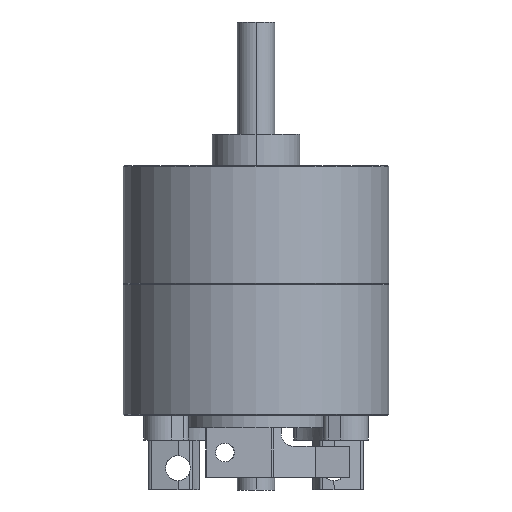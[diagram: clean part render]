
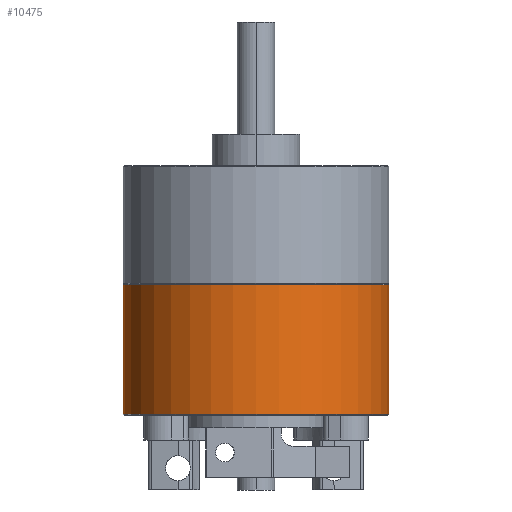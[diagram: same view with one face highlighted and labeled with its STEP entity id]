
A CAD part, front view. The second image highlights one B-rep face of the part: STEP entity #10475.
In plain terms, the highlighted cylindrical face has radius 21.25 mm (diameter 42.5 mm), a partial arc.
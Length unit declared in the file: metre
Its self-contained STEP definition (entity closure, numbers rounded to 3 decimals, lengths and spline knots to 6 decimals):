
#515 = DIRECTION ( 'NONE',  ( 0., 0., 1. ) ) ;
#604 = CYLINDRICAL_SURFACE ( 'NONE', #1049, 0.02125 ) ;
#1049 = AXIS2_PLACEMENT_3D ( 'NONE', #13851, #13509, #13805 ) ;
#1768 = ORIENTED_EDGE ( 'NONE', *, *, #7608, .T. ) ;
#1885 = VECTOR ( 'NONE', #2916, 1. ) ;
#2273 = LINE ( 'NONE', #13551, #1885 ) ;
#2916 = DIRECTION ( 'NONE',  ( 0., 0., 1. ) ) ;
#3161 = VERTEX_POINT ( 'NONE', #3981 ) ;
#3547 = AXIS2_PLACEMENT_3D ( 'NONE', #12333, #12194, #12523 ) ;
#3832 = AXIS2_PLACEMENT_3D ( 'NONE', #11938, #11693, #11642 ) ;
#3981 = CARTESIAN_POINT ( 'NONE',  ( -0.02125, 0., -0.0209 ) ) ;
#4851 = FACE_OUTER_BOUND ( 'NONE', #5981, .T. ) ;
#5241 = ORIENTED_EDGE ( 'NONE', *, *, #14466, .F. ) ;
#5572 = ORIENTED_EDGE ( 'NONE', *, *, #14491, .T. ) ;
#5981 = EDGE_LOOP ( 'NONE', ( #5241, #1768, #5572, #10284 ) ) ;
#7404 = EDGE_CURVE ( 'NONE', #10962, #10695, #14597, .T. ) ;
#7608 = EDGE_CURVE ( 'NONE', #3161, #13598, #11796, .T. ) ;
#7843 = LINE ( 'NONE', #9221, #10608 ) ;
#9221 = CARTESIAN_POINT ( 'NONE',  ( 0.02125, 0., -0.0209 ) ) ;
#9839 = CARTESIAN_POINT ( 'NONE',  ( 0.02125, 0., -0.0001 ) ) ;
#10284 = ORIENTED_EDGE ( 'NONE', *, *, #7404, .F. ) ;
#10475 = ADVANCED_FACE ( 'NONE', ( #4851 ), #604, .T. ) ;
#10608 = VECTOR ( 'NONE', #515, 1. ) ;
#10695 = VERTEX_POINT ( 'NONE', #9839 ) ;
#10962 = VERTEX_POINT ( 'NONE', #14523 ) ;
#11642 = DIRECTION ( 'NONE',  ( 1., 0., 0. ) ) ;
#11693 = DIRECTION ( 'NONE',  ( 0., 0., 1. ) ) ;
#11796 = CIRCLE ( 'NONE', #3547, 0.02125 ) ;
#11938 = CARTESIAN_POINT ( 'NONE',  ( 0., 0., -0.0001 ) ) ;
#12194 = DIRECTION ( 'NONE',  ( 0., 0., 1. ) ) ;
#12333 = CARTESIAN_POINT ( 'NONE',  ( 0., 0., -0.0209 ) ) ;
#12523 = DIRECTION ( 'NONE',  ( 1., 0., 0. ) ) ;
#12608 = CARTESIAN_POINT ( 'NONE',  ( 0.02125, 0., -0.0209 ) ) ;
#13509 = DIRECTION ( 'NONE',  ( 0., 0., 1. ) ) ;
#13551 = CARTESIAN_POINT ( 'NONE',  ( -0.02125, 0., -0.0209 ) ) ;
#13598 = VERTEX_POINT ( 'NONE', #12608 ) ;
#13805 = DIRECTION ( 'NONE',  ( 1., 0., 0. ) ) ;
#13851 = CARTESIAN_POINT ( 'NONE',  ( 0., 0., -0.0209 ) ) ;
#14466 = EDGE_CURVE ( 'NONE', #3161, #10962, #2273, .T. ) ;
#14491 = EDGE_CURVE ( 'NONE', #13598, #10695, #7843, .T. ) ;
#14523 = CARTESIAN_POINT ( 'NONE',  ( -0.02125, 0., -0.0001 ) ) ;
#14597 = CIRCLE ( 'NONE', #3832, 0.02125 ) ;
